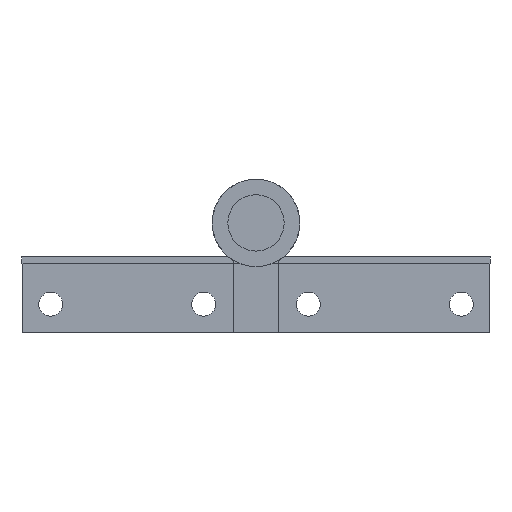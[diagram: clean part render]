
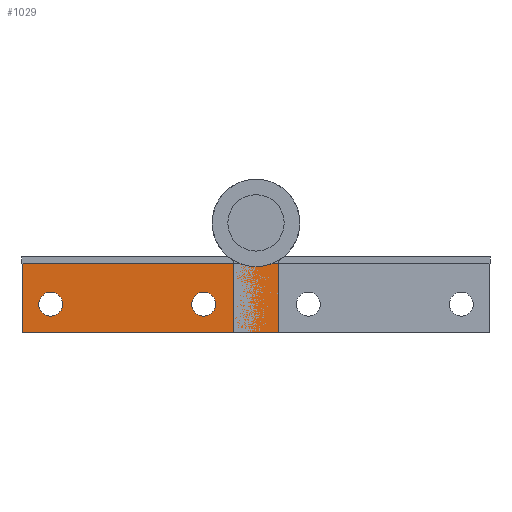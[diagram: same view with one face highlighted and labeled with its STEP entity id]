
A CAD part, front view. The second image highlights one B-rep face of the part: STEP entity #1029.
In plain terms, the highlighted planar face has unit normal (0, -1, 0).
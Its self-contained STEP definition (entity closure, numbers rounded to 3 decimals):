
#200 = CARTESIAN_POINT ( 'NONE',  ( -42.95, 433.2, -17. ) ) ;
#201 = DIRECTION ( 'NONE',  ( 0., 1., 0. ) ) ;
#202 = DIRECTION ( 'NONE',  ( 1., 0., 0. ) ) ;
#297 = CARTESIAN_POINT ( 'NONE',  ( -42.95, 433.2, -17. ) ) ;
#300 = DIRECTION ( 'NONE',  ( 0., 1., 0. ) ) ;
#301 = DIRECTION ( 'NONE',  ( 1., 0., 0. ) ) ;
#329 = CARTESIAN_POINT ( 'NONE',  ( -48.95, 433.2, -23. ) ) ;
#330 = DIRECTION ( 'NONE',  ( 0., 0., -1. ) ) ;
#352 = CARTESIAN_POINT ( 'NONE',  ( 4.75, 433.2, -23. ) ) ;
#354 = DIRECTION ( 'NONE',  ( 0., 0., -1. ) ) ;
#453 = CARTESIAN_POINT ( 'NONE',  ( 9.15, 433.2, -23. ) ) ;
#454 = DIRECTION ( 'NONE',  ( -1., 0., 0. ) ) ;
#461 = CARTESIAN_POINT ( 'NONE',  ( 9.15, 433.2, -8.5 ) ) ;
#462 = DIRECTION ( 'NONE',  ( -1., 0., 0. ) ) ;
#532 = CARTESIAN_POINT ( 'NONE',  ( -10.95, 433.2, -17. ) ) ;
#536 = DIRECTION ( 'NONE',  ( 0., 1., 0. ) ) ;
#537 = DIRECTION ( 'NONE',  ( 1., 0., 0. ) ) ;
#549 = CARTESIAN_POINT ( 'NONE',  ( -10.95, 433.2, -17. ) ) ;
#559 = DIRECTION ( 'NONE',  ( 0., 1., 0. ) ) ;
#560 = DIRECTION ( 'NONE',  ( 1., 0., 0. ) ) ;
#662 = EDGE_LOOP ( 'NONE', ( #1762, #1763 ) ) ;
#664 = EDGE_LOOP ( 'NONE', ( #1764, #1765 ) ) ;
#665 = EDGE_LOOP ( 'NONE', ( #1766, #1767, #1768, #1769 ) ) ;
#717 = VERTEX_POINT ( 'NONE', #887 ) ;
#721 = VERTEX_POINT ( 'NONE', #883 ) ;
#724 = VERTEX_POINT ( 'NONE', #882 ) ;
#758 = DIRECTION ( 'NONE',  ( 1., 0., 0. ) ) ;
#759 = DIRECTION ( 'NONE',  ( 0., 1., 0. ) ) ;
#761 = CARTESIAN_POINT ( 'NONE',  ( 9.15, 433.2, -23. ) ) ;
#762 = PLANE ( 'NONE',  #2008 ) ;
#774 = CARTESIAN_POINT ( 'NONE',  ( -8.45, 433.2, -17. ) ) ;
#775 = CARTESIAN_POINT ( 'NONE',  ( -13.45, 433.2, -17. ) ) ;
#779 = VERTEX_POINT ( 'NONE', #877 ) ;
#826 = CARTESIAN_POINT ( 'NONE',  ( -48.95, 433.2, -23. ) ) ;
#828 = CARTESIAN_POINT ( 'NONE',  ( -48.95, 433.2, -8.5 ) ) ;
#877 = CARTESIAN_POINT ( 'NONE',  ( 4.75, 433.2, -8.5 ) ) ;
#882 = CARTESIAN_POINT ( 'NONE',  ( -45.45, 433.2, -17. ) ) ;
#883 = CARTESIAN_POINT ( 'NONE',  ( -40.45, 433.2, -17. ) ) ;
#887 = CARTESIAN_POINT ( 'NONE',  ( 4.75, 433.2, -23. ) ) ;
#939 = VERTEX_POINT ( 'NONE', #828 ) ;
#941 = VERTEX_POINT ( 'NONE', #826 ) ;
#989 = VERTEX_POINT ( 'NONE', #775 ) ;
#990 = VERTEX_POINT ( 'NONE', #774 ) ;
#1029 = ADVANCED_FACE ( 'NONE', ( #1608, #1612, #1605 ), #762, .F. ) ;
#1111 = EDGE_CURVE ( 'NONE', #721, #724, #1452, .T. ) ;
#1153 = EDGE_CURVE ( 'NONE', #724, #721, #1378, .T. ) ;
#1164 = CIRCLE ( 'NONE', #1917, 2.5 ) ;
#1184 = CIRCLE ( 'NONE', #2049, 2.5 ) ;
#1249 = VECTOR ( 'NONE', #462, 1000. ) ;
#1251 = LINE ( 'NONE', #461, #1249 ) ;
#1262 = VECTOR ( 'NONE', #454, 1000. ) ;
#1263 = LINE ( 'NONE', #453, #1262 ) ;
#1342 = VECTOR ( 'NONE', #354, 1000. ) ;
#1345 = LINE ( 'NONE', #352, #1342 ) ;
#1364 = VECTOR ( 'NONE', #330, 1000. ) ;
#1365 = LINE ( 'NONE', #329, #1364 ) ;
#1378 = CIRCLE ( 'NONE', #1947, 2.5 ) ;
#1452 = CIRCLE ( 'NONE', #1956, 2.5 ) ;
#1605 = FACE_OUTER_BOUND ( 'NONE', #665, .T. ) ;
#1608 = FACE_BOUND ( 'NONE', #662, .T. ) ;
#1612 = FACE_BOUND ( 'NONE', #664, .T. ) ;
#1762 = ORIENTED_EDGE ( 'NONE', *, *, #2089, .T. ) ;
#1763 = ORIENTED_EDGE ( 'NONE', *, *, #2067, .T. ) ;
#1764 = ORIENTED_EDGE ( 'NONE', *, *, #1153, .T. ) ;
#1765 = ORIENTED_EDGE ( 'NONE', *, *, #1111, .T. ) ;
#1766 = ORIENTED_EDGE ( 'NONE', *, *, #1992, .T. ) ;
#1767 = ORIENTED_EDGE ( 'NONE', *, *, #1863, .T. ) ;
#1768 = ORIENTED_EDGE ( 'NONE', *, *, #1988, .F. ) ;
#1769 = ORIENTED_EDGE ( 'NONE', *, *, #1886, .F. ) ;
#1863 = EDGE_CURVE ( 'NONE', #939, #941, #1365, .T. ) ;
#1886 = EDGE_CURVE ( 'NONE', #779, #717, #1345, .T. ) ;
#1917 = AXIS2_PLACEMENT_3D ( 'NONE', #549, #559, #560 ) ;
#1947 = AXIS2_PLACEMENT_3D ( 'NONE', #297, #300, #301 ) ;
#1956 = AXIS2_PLACEMENT_3D ( 'NONE', #200, #201, #202 ) ;
#1988 = EDGE_CURVE ( 'NONE', #717, #941, #1263, .T. ) ;
#1992 = EDGE_CURVE ( 'NONE', #779, #939, #1251, .T. ) ;
#2008 = AXIS2_PLACEMENT_3D ( 'NONE', #761, #759, #758 ) ;
#2049 = AXIS2_PLACEMENT_3D ( 'NONE', #532, #536, #537 ) ;
#2067 = EDGE_CURVE ( 'NONE', #990, #989, #1184, .T. ) ;
#2089 = EDGE_CURVE ( 'NONE', #989, #990, #1164, .T. ) ;
